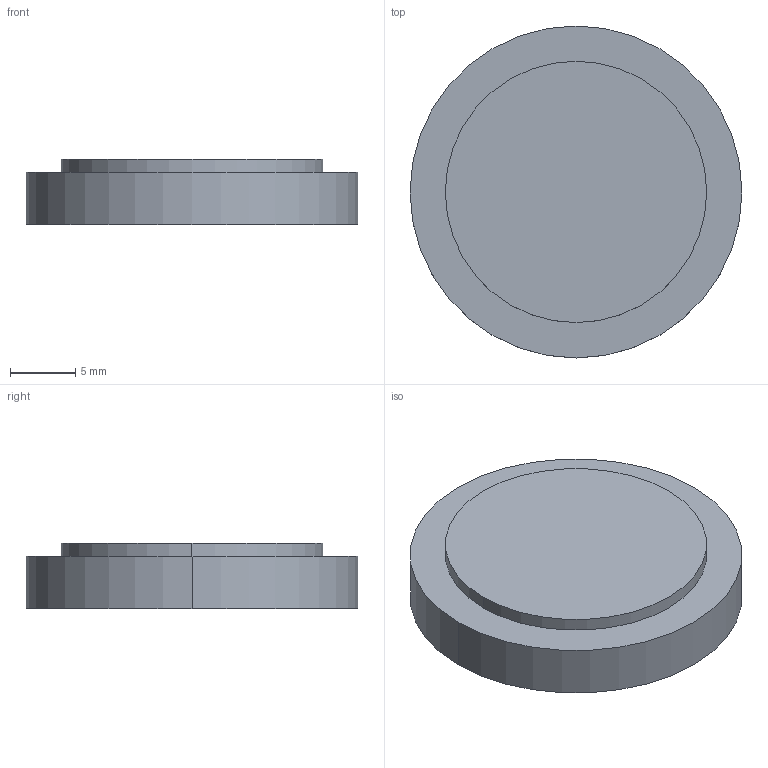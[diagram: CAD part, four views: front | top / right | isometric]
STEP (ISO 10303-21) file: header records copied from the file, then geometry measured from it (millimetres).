
FILE_DESCRIPTION(('STEP AP214'),'1');
FILE_NAME('LLG-25-2M.STEP','2020-03-09T17:41:33',(' '),(' '),'Spatial InterOp 3D',' ',' ');
FILE_SCHEMA(('AUTOMOTIVE_DESIGN { 1 0 10303 214 1 1 1 1 }'));
Length unit declared in the file: millimetre
Products named in the file (1): 1
Bounding box: 25.4 x 25.4 x 5 mm (x, y, z)
Volume: 2336.2 mm3; surface area: 2022.2 mm2
Topology: 2 solids, 2 shells, 9 faces, 16 edges, 9 vertices
Faces by surface type: cylinder 4, plane 3, sphere 2
Entity records: 229 total; most frequent: DIRECTION 46, CARTESIAN_POINT 34, ORIENTED_EDGE 28, AXIS2_PLACEMENT_3D 21, EDGE_CURVE 14, CIRCLE 10, ADVANCED_FACE 9, FACE_OUTER_BOUND 9
